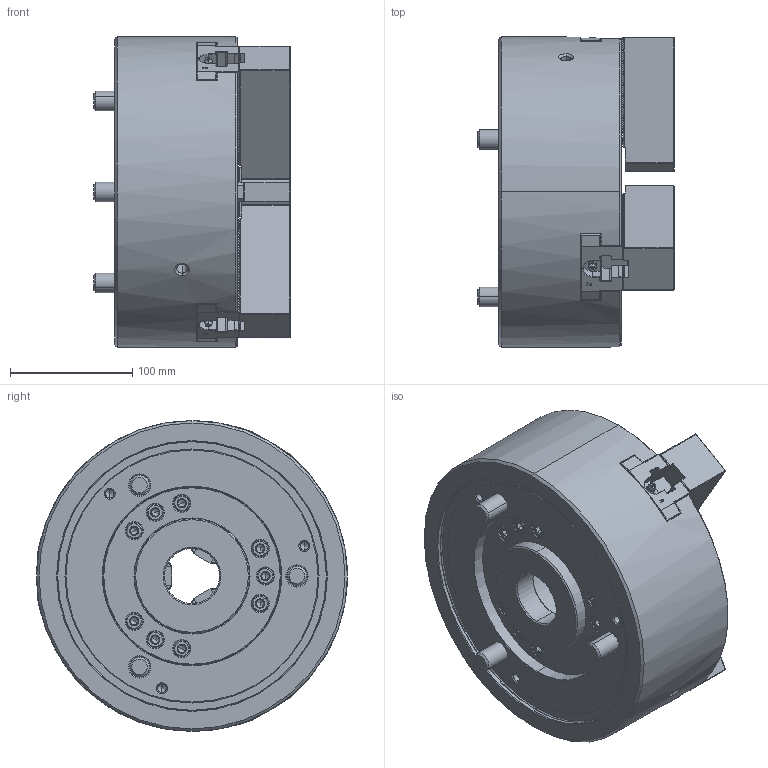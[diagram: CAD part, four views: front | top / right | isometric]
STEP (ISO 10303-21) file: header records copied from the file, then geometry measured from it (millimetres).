
FILE_DESCRIPTION (( 'STEP AP203' ), '1' );
FILE_NAME ('B-210M_HCL.STEP', '2025-09-03T08:59:29', ( '' ), ( '' ), 'SwSTEP 2.0', 'SolidWorks 2022', '' );
FILE_SCHEMA (( 'CONFIG_CONTROL_DESIGN' ));
Length unit declared in the file: millimetre
Products named in the file (9): Copy of DEV-B-210M-ドローナット^DEV-B-210M-クミタテ_ねじ切りなし; Part9^DEV-B-210M-クミタテ; Copy of DEV-B-210M-Bアナツキ M16x100^DEV-B-210M-クミタテ; B-210M_HCL; Copy of DEV-B-210M-ソフトジョー^DEV-B-210M-クミタテ_デフォルト; Copy of DEV-B-210M-Bアナツキ M12x30^DEV-B-210M-クミタテ; Copy of DEV-B-210M-カバー^DEV-B-210M-クミタテ; Copy of DEV-B-210M-Tナット^DEV-B-210M-クミタテ; Copy of DEV-B-210M-Bアナツキボタン M6x10^DEV-B-210M-クミタテ
Assembly tree (21 placements, depth 2):
  B-210M_HCL
    Copy of DEV-B-210M-Bアナツキ M16x100^DEV-B-210M-クミタテ  x3
    Copy of DEV-B-210M-Bアナツキ M12x30^DEV-B-210M-クミタテ  x6
    Copy of DEV-B-210M-Bアナツキボタン M6x10^DEV-B-210M-クミタテ  x3
    Copy of DEV-B-210M-ドローナット^DEV-B-210M-クミタテ_ねじ切りなし
    Copy of DEV-B-210M-カバー^DEV-B-210M-クミタテ
    Copy of DEV-B-210M-ソフトジョー^DEV-B-210M-クミタテ_デフォルト  x3
    Copy of DEV-B-210M-Tナット^DEV-B-210M-クミタテ  x3
    Part9^DEV-B-210M-クミタテ
Bounding box: 160.2 x 254 x 254 mm (x, y, z)
Volume: 4839663.5 mm3; surface area: 458921.7 mm2
Topology: 21 solids, 27 shells, 4515 faces, 12667 edges, 8257 vertices
Faces by surface type: plane 2848, cylinder 1099, cone 380, bspline 119, torus 62, sphere 7
Entity records: 99618 total; most frequent: CARTESIAN_POINT 25247, ORIENTED_EDGE 16258, DIRECTION 13747, EDGE_CURVE 8129, VECTOR 6037, LINE 6037, VERTEX_POINT 5305, AXIS2_PLACEMENT_3D 3855
